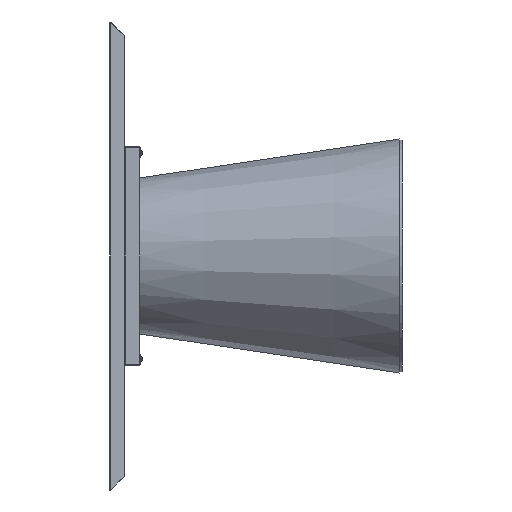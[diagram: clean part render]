
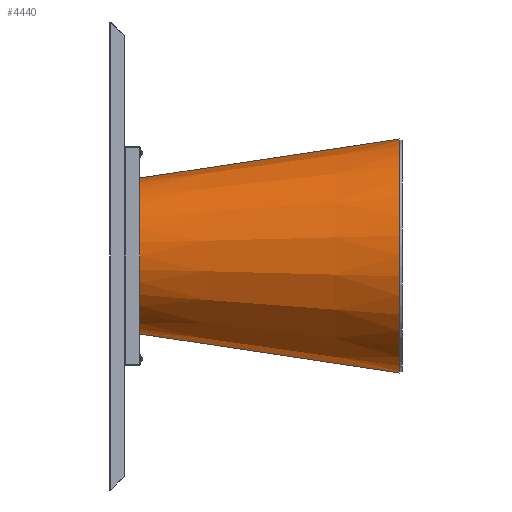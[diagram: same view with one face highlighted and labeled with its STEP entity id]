
A CAD part, left-side view. The second image highlights one B-rep face of the part: STEP entity #4440.
In plain terms, the highlighted conical face has half-angle 8.552 degrees and reference radius 200 mm.
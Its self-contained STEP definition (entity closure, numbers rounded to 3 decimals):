
#489 = VECTOR ( 'NONE', #13726, 1000. ) ;
#1192 = AXIS2_PLACEMENT_3D ( 'NONE', #6809, #14887, #4217 ) ;
#1486 = VERTEX_POINT ( 'NONE', #9491 ) ;
#2160 = DIRECTION ( 'NONE',  ( 0., 0., 1. ) ) ;
#2205 = CONICAL_SURFACE ( 'NONE', #1192, 200., 0.149 ) ;
#2516 = VECTOR ( 'NONE', #13240, 1000. ) ;
#2669 = ORIENTED_EDGE ( 'NONE', *, *, #5677, .F. ) ;
#3548 = AXIS2_PLACEMENT_3D ( 'NONE', #8630, #14670, #10903 ) ;
#4217 = DIRECTION ( 'NONE',  ( 0., 0., -1. ) ) ;
#4440 = ADVANCED_FACE ( 'NONE', ( #6585 ), #2205, .T. ) ;
#4460 = CARTESIAN_POINT ( 'NONE',  ( 0., 8., 0. ) ) ;
#4615 = VERTEX_POINT ( 'NONE', #7409 ) ;
#4617 = VERTEX_POINT ( 'NONE', #9833 ) ;
#5677 = EDGE_CURVE ( 'NONE', #4617, #4615, #12540, .T. ) ;
#6585 = FACE_OUTER_BOUND ( 'NONE', #13637, .T. ) ;
#6809 = CARTESIAN_POINT ( 'NONE',  ( 0., 673., 0. ) ) ;
#6824 = LINE ( 'NONE', #11602, #2516 ) ;
#6826 = EDGE_CURVE ( 'NONE', #1486, #4617, #11084, .T. ) ;
#7409 = CARTESIAN_POINT ( 'NONE',  ( 0., 8., 300. ) ) ;
#7982 = AXIS2_PLACEMENT_3D ( 'NONE', #4460, #13003, #2160 ) ;
#8630 = CARTESIAN_POINT ( 'NONE',  ( 0., 673., 0. ) ) ;
#8718 = CIRCLE ( 'NONE', #7982, 300. ) ;
#9491 = CARTESIAN_POINT ( 'NONE',  ( 0., 673., -200. ) ) ;
#9833 = CARTESIAN_POINT ( 'NONE',  ( 0., 673., 200. ) ) ;
#10410 = CARTESIAN_POINT ( 'NONE',  ( 0., 673., 200. ) ) ;
#10903 = DIRECTION ( 'NONE',  ( 0., 0., 1. ) ) ;
#11084 = CIRCLE ( 'NONE', #3548, 200. ) ;
#11486 = ORIENTED_EDGE ( 'NONE', *, *, #13927, .T. ) ;
#11602 = CARTESIAN_POINT ( 'NONE',  ( 0., 673., -200. ) ) ;
#12403 = ORIENTED_EDGE ( 'NONE', *, *, #6826, .F. ) ;
#12540 = LINE ( 'NONE', #10410, #489 ) ;
#13003 = DIRECTION ( 'NONE',  ( 0., 1., 0. ) ) ;
#13240 = DIRECTION ( 'NONE',  ( 0., -0.989, -0.149 ) ) ;
#13281 = ORIENTED_EDGE ( 'NONE', *, *, #14020, .T. ) ;
#13637 = EDGE_LOOP ( 'NONE', ( #2669, #12403, #13281, #11486 ) ) ;
#13721 = CARTESIAN_POINT ( 'NONE',  ( 0., 8., -300. ) ) ;
#13726 = DIRECTION ( 'NONE',  ( 0., -0.989, 0.149 ) ) ;
#13927 = EDGE_CURVE ( 'NONE', #15535, #4615, #8718, .T. ) ;
#14020 = EDGE_CURVE ( 'NONE', #1486, #15535, #6824, .T. ) ;
#14670 = DIRECTION ( 'NONE',  ( 0., 1., 0. ) ) ;
#14887 = DIRECTION ( 'NONE',  ( 0., -1., 0. ) ) ;
#15535 = VERTEX_POINT ( 'NONE', #13721 ) ;
